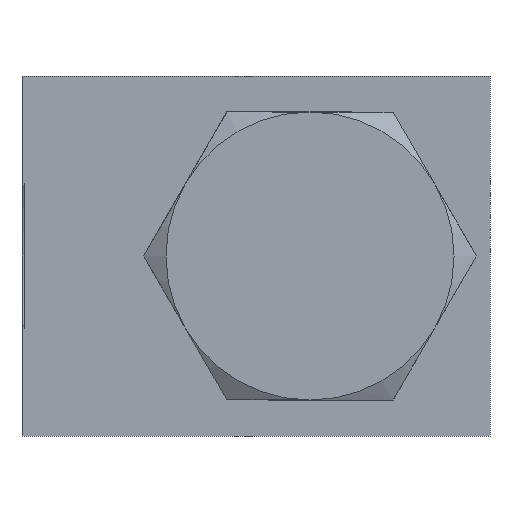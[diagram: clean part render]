
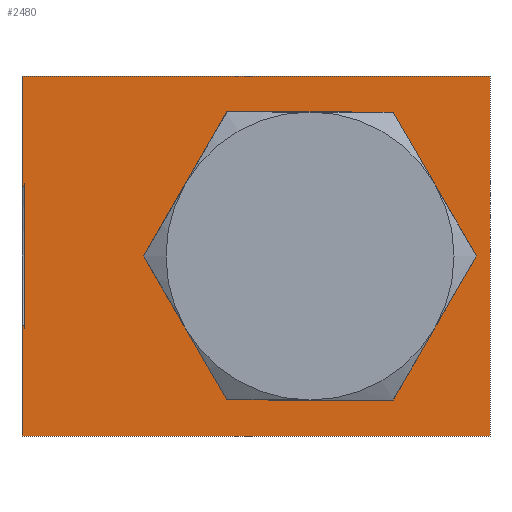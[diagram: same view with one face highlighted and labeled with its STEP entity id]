
A CAD part, left-side view. The second image highlights one B-rep face of the part: STEP entity #2480.
In plain terms, the highlighted planar face has unit normal (-1, 0, 0).
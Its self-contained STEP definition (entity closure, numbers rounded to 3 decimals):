
#3 = EDGE_CURVE ( 'NONE', #2217, #506, #2095, .T. ) ;
#10 = EDGE_CURVE ( 'NONE', #2045, #4027, #4588, .T. ) ;
#64 = ORIENTED_EDGE ( 'NONE', *, *, #5377, .F. ) ;
#68 = VECTOR ( 'NONE', #2171, 1000. ) ;
#115 = VECTOR ( 'NONE', #1451, 1000. ) ;
#144 = CARTESIAN_POINT ( 'NONE',  ( 10., 31.7, -7.746 ) ) ;
#151 = EDGE_CURVE ( 'NONE', #2045, #2955, #542, .T. ) ;
#207 = VERTEX_POINT ( 'NONE', #6032 ) ;
#218 = CARTESIAN_POINT ( 'NONE',  ( 10., 9.238, -16. ) ) ;
#241 = CARTESIAN_POINT ( 'NONE',  ( 10., 32., -20. ) ) ;
#258 = CARTESIAN_POINT ( 'NONE',  ( 10., 31.7, 7.746 ) ) ;
#262 = LINE ( 'NONE', #4300, #2845 ) ;
#286 = ORIENTED_EDGE ( 'NONE', *, *, #4766, .F. ) ;
#377 = EDGE_CURVE ( 'NONE', #1001, #4737, #3739, .T. ) ;
#379 = DIRECTION ( 'NONE',  ( 0., -0.5, -0.866 ) ) ;
#418 = VECTOR ( 'NONE', #5597, 1000. ) ;
#506 = VERTEX_POINT ( 'NONE', #4124 ) ;
#542 = LINE ( 'NONE', #2301, #1774 ) ;
#660 = DIRECTION ( 'NONE',  ( 0., 0., 1. ) ) ;
#723 = VECTOR ( 'NONE', #5911, 1000. ) ;
#752 = ORIENTED_EDGE ( 'NONE', *, *, #10, .F. ) ;
#786 = CARTESIAN_POINT ( 'NONE',  ( 10., 12.5, -16. ) ) ;
#915 = VECTOR ( 'NONE', #2310, 1000. ) ;
#927 = CARTESIAN_POINT ( 'NONE',  ( 10., 12.5, 16. ) ) ;
#1001 = VERTEX_POINT ( 'NONE', #1368 ) ;
#1320 = VECTOR ( 'NONE', #2980, 1000. ) ;
#1336 = ORIENTED_EDGE ( 'NONE', *, *, #151, .T. ) ;
#1368 = CARTESIAN_POINT ( 'NONE',  ( 10., 32., 20. ) ) ;
#1451 = DIRECTION ( 'NONE',  ( 0., 1., 0. ) ) ;
#1482 = LINE ( 'NONE', #927, #115 ) ;
#1496 = ORIENTED_EDGE ( 'NONE', *, *, #377, .F. ) ;
#1695 = CARTESIAN_POINT ( 'NONE',  ( 10., 31.7, -7.746 ) ) ;
#1774 = VECTOR ( 'NONE', #2720, 1000. ) ;
#1804 = LINE ( 'NONE', #3348, #418 ) ;
#1835 = VECTOR ( 'NONE', #5047, 1000. ) ;
#1958 = ORIENTED_EDGE ( 'NONE', *, *, #5296, .F. ) ;
#2045 = VERTEX_POINT ( 'NONE', #4189 ) ;
#2095 = LINE ( 'NONE', #786, #723 ) ;
#2110 = CARTESIAN_POINT ( 'NONE',  ( 10., -20., -20. ) ) ;
#2123 = VERTEX_POINT ( 'NONE', #5247 ) ;
#2139 = CARTESIAN_POINT ( 'NONE',  ( 10., -9.238, 16. ) ) ;
#2171 = DIRECTION ( 'NONE',  ( 0., -1., 0. ) ) ;
#2217 = VERTEX_POINT ( 'NONE', #218 ) ;
#2291 = LINE ( 'NONE', #5073, #915 ) ;
#2301 = CARTESIAN_POINT ( 'NONE',  ( 10., 31.7, -20. ) ) ;
#2310 = DIRECTION ( 'NONE',  ( 0., 0., 1. ) ) ;
#2436 = ORIENTED_EDGE ( 'NONE', *, *, #5376, .F. ) ;
#2449 = ORIENTED_EDGE ( 'NONE', *, *, #5385, .F. ) ;
#2480 = ADVANCED_FACE ( 'NONE', ( #5245, #4008 ), #4268, .T. ) ;
#2484 = CARTESIAN_POINT ( 'NONE',  ( 10., -10.731, -13.413 ) ) ;
#2540 = AXIS2_PLACEMENT_3D ( 'NONE', #4849, #4869, #4916 ) ;
#2720 = DIRECTION ( 'NONE',  ( 0., 0., -1. ) ) ;
#2822 = DIRECTION ( 'NONE',  ( 0., 1., 0. ) ) ;
#2845 = VECTOR ( 'NONE', #4750, 1000. ) ;
#2851 = EDGE_LOOP ( 'NONE', ( #2436, #64, #5231, #3985, #2449, #3440 ) ) ;
#2955 = VERTEX_POINT ( 'NONE', #1695 ) ;
#2980 = DIRECTION ( 'NONE',  ( 0., -0.5, 0.866 ) ) ;
#3309 = ORIENTED_EDGE ( 'NONE', *, *, #5346, .T. ) ;
#3348 = CARTESIAN_POINT ( 'NONE',  ( 10., 32., -20. ) ) ;
#3440 = ORIENTED_EDGE ( 'NONE', *, *, #3, .F. ) ;
#3739 = LINE ( 'NONE', #4954, #68 ) ;
#3743 = DIRECTION ( 'NONE',  ( 0., 0., 1. ) ) ;
#3796 = CARTESIAN_POINT ( 'NONE',  ( 10., 32., -20. ) ) ;
#3853 = CARTESIAN_POINT ( 'NONE',  ( 10., -18.475, 0. ) ) ;
#3910 = CARTESIAN_POINT ( 'NONE',  ( 10., -20., 20. ) ) ;
#3915 = VECTOR ( 'NONE', #5251, 1000. ) ;
#3985 = ORIENTED_EDGE ( 'NONE', *, *, #5382, .F. ) ;
#4008 = FACE_OUTER_BOUND ( 'NONE', #5577, .T. ) ;
#4027 = VERTEX_POINT ( 'NONE', #4424 ) ;
#4037 = LINE ( 'NONE', #4772, #3915 ) ;
#4040 = ORIENTED_EDGE ( 'NONE', *, *, #5099, .T. ) ;
#4113 = VERTEX_POINT ( 'NONE', #4583 ) ;
#4124 = CARTESIAN_POINT ( 'NONE',  ( 10., -9.238, -16. ) ) ;
#4189 = CARTESIAN_POINT ( 'NONE',  ( 10., 31.7, 7.746 ) ) ;
#4268 = PLANE ( 'NONE',  #2540 ) ;
#4300 = CARTESIAN_POINT ( 'NONE',  ( 10., 16.981, 2.587 ) ) ;
#4329 = VERTEX_POINT ( 'NONE', #3796 ) ;
#4424 = CARTESIAN_POINT ( 'NONE',  ( 10., 32., 7.746 ) ) ;
#4437 = VECTOR ( 'NONE', #2822, 1000. ) ;
#4583 = CARTESIAN_POINT ( 'NONE',  ( 10., 9.238, 16. ) ) ;
#4588 = LINE ( 'NONE', #258, #4437 ) ;
#4737 = VERTEX_POINT ( 'NONE', #3910 ) ;
#4738 = EDGE_CURVE ( 'NONE', #2123, #2955, #5557, .T. ) ;
#4750 = DIRECTION ( 'NONE',  ( 0., 0.5, -0.866 ) ) ;
#4766 = EDGE_CURVE ( 'NONE', #4027, #1001, #4842, .T. ) ;
#4772 = CARTESIAN_POINT ( 'NONE',  ( 10., -10.731, 13.413 ) ) ;
#4819 = VERTEX_POINT ( 'NONE', #3853 ) ;
#4842 = LINE ( 'NONE', #241, #5835 ) ;
#4849 = CARTESIAN_POINT ( 'NONE',  ( 10., 32., -20. ) ) ;
#4869 = DIRECTION ( 'NONE',  ( -1., 0., 0. ) ) ;
#4916 = DIRECTION ( 'NONE',  ( 0., -1., 0. ) ) ;
#4954 = CARTESIAN_POINT ( 'NONE',  ( 10., 32., 20. ) ) ;
#4971 = LINE ( 'NONE', #4990, #6066 ) ;
#4990 = CARTESIAN_POINT ( 'NONE',  ( 10., -20., -20. ) ) ;
#5047 = DIRECTION ( 'NONE',  ( 0., -1., 0. ) ) ;
#5073 = CARTESIAN_POINT ( 'NONE',  ( 10., 32., -20. ) ) ;
#5099 = EDGE_CURVE ( 'NONE', #5764, #4737, #4971, .T. ) ;
#5111 = LINE ( 'NONE', #2484, #1320 ) ;
#5216 = CARTESIAN_POINT ( 'NONE',  ( 10., 16.981, -2.587 ) ) ;
#5231 = ORIENTED_EDGE ( 'NONE', *, *, #5380, .F. ) ;
#5245 = FACE_BOUND ( 'NONE', #2851, .T. ) ;
#5247 = CARTESIAN_POINT ( 'NONE',  ( 10., 32., -7.746 ) ) ;
#5251 = DIRECTION ( 'NONE',  ( 0., 0.5, 0.866 ) ) ;
#5267 = VECTOR ( 'NONE', #379, 1000. ) ;
#5296 = EDGE_CURVE ( 'NONE', #4329, #2123, #2291, .T. ) ;
#5346 = EDGE_CURVE ( 'NONE', #4329, #5764, #1804, .T. ) ;
#5376 = EDGE_CURVE ( 'NONE', #207, #2217, #5536, .T. ) ;
#5377 = EDGE_CURVE ( 'NONE', #4113, #207, #262, .T. ) ;
#5380 = EDGE_CURVE ( 'NONE', #5883, #4113, #1482, .T. ) ;
#5382 = EDGE_CURVE ( 'NONE', #4819, #5883, #4037, .T. ) ;
#5385 = EDGE_CURVE ( 'NONE', #506, #4819, #5111, .T. ) ;
#5536 = LINE ( 'NONE', #5216, #5267 ) ;
#5557 = LINE ( 'NONE', #144, #1835 ) ;
#5577 = EDGE_LOOP ( 'NONE', ( #752, #1336, #5585, #1958, #3309, #4040, #1496, #286 ) ) ;
#5585 = ORIENTED_EDGE ( 'NONE', *, *, #4738, .F. ) ;
#5597 = DIRECTION ( 'NONE',  ( 0., -1., 0. ) ) ;
#5764 = VERTEX_POINT ( 'NONE', #2110 ) ;
#5835 = VECTOR ( 'NONE', #3743, 1000. ) ;
#5883 = VERTEX_POINT ( 'NONE', #2139 ) ;
#5911 = DIRECTION ( 'NONE',  ( 0., -1., 0. ) ) ;
#6032 = CARTESIAN_POINT ( 'NONE',  ( 10., 18.475, 0. ) ) ;
#6066 = VECTOR ( 'NONE', #660, 1000. ) ;
